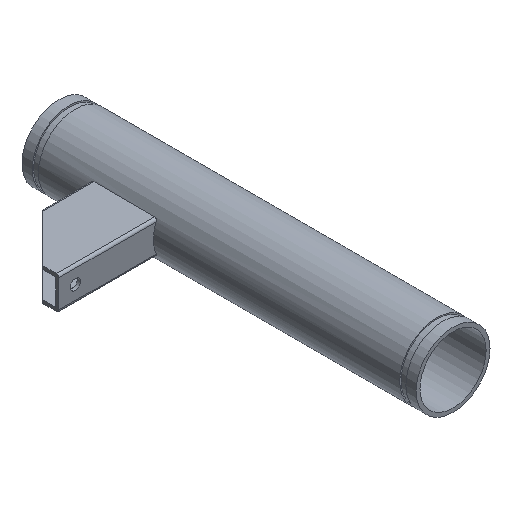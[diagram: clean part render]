
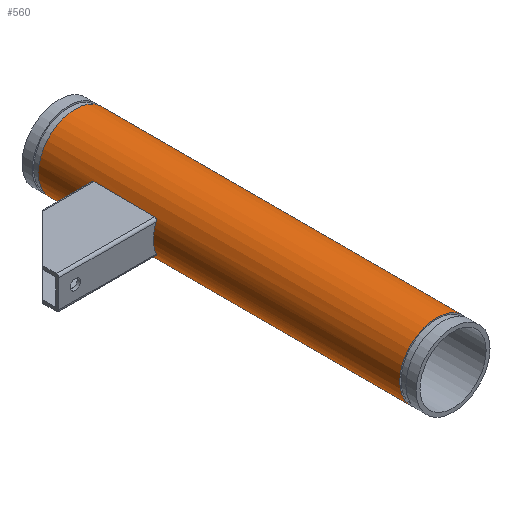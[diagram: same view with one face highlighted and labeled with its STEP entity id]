
A CAD part, isometric view. The second image highlights one B-rep face of the part: STEP entity #560.
In plain terms, the highlighted cylindrical face has radius 57.15 mm (diameter 114.3 mm), a full revolution.
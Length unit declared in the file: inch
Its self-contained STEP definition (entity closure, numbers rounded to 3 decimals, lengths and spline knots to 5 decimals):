
#22=CIRCLE('',#603,2.25);
#23=CIRCLE('',#604,2.25);
#32=CIRCLE('',#621,2.25);
#33=CIRCLE('',#622,2.25);
#34=CIRCLE('',#623,2.25);
#35=CIRCLE('',#624,2.25);
#36=CIRCLE('',#625,2.25);
#37=CIRCLE('',#626,2.25);
#83=FACE_OUTER_BOUND('',#111,.T.);
#111=EDGE_LOOP('',(#407,#408,#409,#410,#411,#412,#413,#414,#415,#416,#417,
#418,#419,#420,#421,#422,#423,#424));
#136=B_SPLINE_CURVE_WITH_KNOTS('',3,(#837,#838,#839,#840,#841,#842,#843,
#844,#845,#846),.UNSPECIFIED.,.F.,.F.,(4,2,2,2,4),(0.,0.14327,
0.28654,0.4441,0.60167),.UNSPECIFIED.);
#137=B_SPLINE_CURVE_WITH_KNOTS('',3,(#863,#864,#865,#866,#867,#868,#869,
#870,#871,#872),.UNSPECIFIED.,.F.,.F.,(4,2,2,2,4),(-0.60167,-0.4441,
-0.28654,-0.14327,0.),.UNSPECIFIED.);
#138=B_SPLINE_CURVE_WITH_KNOTS('',3,(#883,#884,#885,#886,#887,#888,#889,
#890,#891,#892),.UNSPECIFIED.,.F.,.F.,(4,2,2,2,4),(0.59362,0.75118,
0.90875,1.05202,1.19529),.UNSPECIFIED.);
#139=B_SPLINE_CURVE_WITH_KNOTS('',3,(#914,#915,#916,#917,#918,#919,#920,
#921,#922,#923),.UNSPECIFIED.,.F.,.F.,(4,2,2,2,4),(1.19529,1.33855,
1.48182,1.63939,1.79696),.UNSPECIFIED.);
#142=LINE('',#850,#180);
#160=LINE('',#927,#198);
#167=LINE('',#959,#205);
#168=LINE('',#962,#206);
#180=VECTOR('',#671,0.3937);
#198=VECTOR('',#711,0.3937);
#205=VECTOR('',#742,2.25);
#206=VECTOR('',#745,2.25);
#220=VERTEX_POINT('',#834);
#221=VERTEX_POINT('',#836);
#222=VERTEX_POINT('',#849);
#227=VERTEX_POINT('',#860);
#228=VERTEX_POINT('',#862);
#229=VERTEX_POINT('',#876);
#231=VERTEX_POINT('',#882);
#239=VERTEX_POINT('',#911);
#240=VERTEX_POINT('',#913);
#251=VERTEX_POINT('',#954);
#252=VERTEX_POINT('',#955);
#253=VERTEX_POINT('',#958);
#254=VERTEX_POINT('',#961);
#255=VERTEX_POINT('',#963);
#276=EDGE_CURVE('',#220,#221,#136,.F.);
#278=EDGE_CURVE('',#222,#221,#142,.T.);
#284=EDGE_CURVE('',#227,#228,#137,.F.);
#287=EDGE_CURVE('',#229,#228,#22,.T.);
#288=EDGE_CURVE('',#220,#229,#23,.T.);
#290=EDGE_CURVE('',#222,#231,#138,.F.);
#301=EDGE_CURVE('',#239,#240,#139,.F.);
#304=EDGE_CURVE('',#227,#240,#160,.T.);
#317=EDGE_CURVE('',#251,#252,#32,.T.);
#318=EDGE_CURVE('',#252,#251,#33,.T.);
#319=EDGE_CURVE('',#252,#253,#167,.T.);
#320=EDGE_CURVE('',#253,#231,#34,.T.);
#321=EDGE_CURVE('',#229,#254,#168,.T.);
#322=EDGE_CURVE('',#254,#255,#35,.T.);
#323=EDGE_CURVE('',#255,#254,#36,.T.);
#324=EDGE_CURVE('',#239,#253,#37,.T.);
#407=ORIENTED_EDGE('',*,*,#317,.F.);
#408=ORIENTED_EDGE('',*,*,#318,.F.);
#409=ORIENTED_EDGE('',*,*,#319,.T.);
#410=ORIENTED_EDGE('',*,*,#320,.T.);
#411=ORIENTED_EDGE('',*,*,#290,.F.);
#412=ORIENTED_EDGE('',*,*,#278,.T.);
#413=ORIENTED_EDGE('',*,*,#276,.F.);
#414=ORIENTED_EDGE('',*,*,#288,.T.);
#415=ORIENTED_EDGE('',*,*,#321,.T.);
#416=ORIENTED_EDGE('',*,*,#322,.T.);
#417=ORIENTED_EDGE('',*,*,#323,.T.);
#418=ORIENTED_EDGE('',*,*,#321,.F.);
#419=ORIENTED_EDGE('',*,*,#287,.T.);
#420=ORIENTED_EDGE('',*,*,#284,.F.);
#421=ORIENTED_EDGE('',*,*,#304,.T.);
#422=ORIENTED_EDGE('',*,*,#301,.F.);
#423=ORIENTED_EDGE('',*,*,#324,.T.);
#424=ORIENTED_EDGE('',*,*,#319,.F.);
#514=CYLINDRICAL_SURFACE('',#620,2.25);
#560=ADVANCED_FACE('',(#83),#514,.T.);
#603=AXIS2_PLACEMENT_3D('',#877,#684,#685);
#604=AXIS2_PLACEMENT_3D('',#878,#686,#687);
#620=AXIS2_PLACEMENT_3D('',#953,#736,#737);
#621=AXIS2_PLACEMENT_3D('',#956,#738,#739);
#622=AXIS2_PLACEMENT_3D('',#957,#740,#741);
#623=AXIS2_PLACEMENT_3D('',#960,#743,#744);
#624=AXIS2_PLACEMENT_3D('',#964,#746,#747);
#625=AXIS2_PLACEMENT_3D('',#965,#748,#749);
#626=AXIS2_PLACEMENT_3D('',#966,#750,#751);
#671=DIRECTION('',(0.,1.,0.));
#684=DIRECTION('center_axis',(0.,1.,0.));
#685=DIRECTION('ref_axis',(1.,0.,0.));
#686=DIRECTION('center_axis',(0.,1.,0.));
#687=DIRECTION('ref_axis',(1.,0.,0.));
#711=DIRECTION('',(0.,-1.,0.));
#736=DIRECTION('center_axis',(0.,-1.,0.));
#737=DIRECTION('ref_axis',(1.,0.,0.));
#738=DIRECTION('center_axis',(0.,-1.,0.));
#739=DIRECTION('ref_axis',(1.,0.,0.));
#740=DIRECTION('center_axis',(0.,-1.,0.));
#741=DIRECTION('ref_axis',(1.,0.,0.));
#742=DIRECTION('',(0.,1.,0.));
#743=DIRECTION('center_axis',(0.,-1.,0.));
#744=DIRECTION('ref_axis',(1.,0.,0.));
#745=DIRECTION('',(0.,1.,0.));
#746=DIRECTION('center_axis',(0.,-1.,0.));
#747=DIRECTION('ref_axis',(1.,0.,0.));
#748=DIRECTION('center_axis',(0.,-1.,0.));
#749=DIRECTION('ref_axis',(1.,0.,0.));
#750=DIRECTION('center_axis',(0.,-1.,0.));
#751=DIRECTION('ref_axis',(1.,0.,0.));
#834=CARTESIAN_POINT('',(-2.08327,20.,-0.85));
#836=CARTESIAN_POINT('',(-2.01556,19.85,-1.));
#837=CARTESIAN_POINT('Ctrl Pts',(-2.01556,19.85,-1.));
#838=CARTESIAN_POINT('Ctrl Pts',(-2.01556,19.8688,-1.));
#839=CARTESIAN_POINT('Ctrl Pts',(-2.01744,19.88868,-0.99624));
#840=CARTESIAN_POINT('Ctrl Pts',(-2.02469,19.92491,-0.98142));
#841=CARTESIAN_POINT('Ctrl Pts',(-2.03004,19.94127,-0.97037));
#842=CARTESIAN_POINT('Ctrl Pts',(-2.0423,19.96828,-0.94432));
#843=CARTESIAN_POINT('Ctrl Pts',(-2.05022,19.98027,-0.92711));
#844=CARTESIAN_POINT('Ctrl Pts',(-2.0668,19.99613,-0.88953));
#845=CARTESIAN_POINT('Ctrl Pts',(-2.07545,20.,-0.86915));
#846=CARTESIAN_POINT('Ctrl Pts',(-2.08327,20.,-0.85));
#849=CARTESIAN_POINT('',(-2.01556,16.15,-1.));
#850=CARTESIAN_POINT('',(-2.01556,12.,-1.));
#860=CARTESIAN_POINT('',(-2.01556,19.85,1.));
#862=CARTESIAN_POINT('',(-2.08327,20.,0.85));
#863=CARTESIAN_POINT('Ctrl Pts',(-2.08327,20.,0.85));
#864=CARTESIAN_POINT('Ctrl Pts',(-2.07545,20.,0.86915));
#865=CARTESIAN_POINT('Ctrl Pts',(-2.0668,19.99613,0.88953));
#866=CARTESIAN_POINT('Ctrl Pts',(-2.05022,19.98027,0.92711));
#867=CARTESIAN_POINT('Ctrl Pts',(-2.0423,19.96828,0.94432));
#868=CARTESIAN_POINT('Ctrl Pts',(-2.03004,19.94127,0.97037));
#869=CARTESIAN_POINT('Ctrl Pts',(-2.02469,19.92491,0.98142));
#870=CARTESIAN_POINT('Ctrl Pts',(-2.01744,19.88868,0.99624));
#871=CARTESIAN_POINT('Ctrl Pts',(-2.01556,19.8688,1.));
#872=CARTESIAN_POINT('Ctrl Pts',(-2.01556,19.85,1.));
#876=CARTESIAN_POINT('',(-2.25,20.,0.));
#877=CARTESIAN_POINT('Origin',(0.,20.,0.));
#878=CARTESIAN_POINT('Origin',(0.,20.,0.));
#882=CARTESIAN_POINT('',(-2.08327,16.,-0.85));
#883=CARTESIAN_POINT('Ctrl Pts',(-2.08327,16.,-0.85));
#884=CARTESIAN_POINT('Ctrl Pts',(-2.07545,16.,-0.86915));
#885=CARTESIAN_POINT('Ctrl Pts',(-2.0668,16.00387,-0.88953));
#886=CARTESIAN_POINT('Ctrl Pts',(-2.05022,16.01973,-0.92711));
#887=CARTESIAN_POINT('Ctrl Pts',(-2.0423,16.03172,-0.94432));
#888=CARTESIAN_POINT('Ctrl Pts',(-2.03004,16.05873,-0.97037));
#889=CARTESIAN_POINT('Ctrl Pts',(-2.02469,16.07509,-0.98142));
#890=CARTESIAN_POINT('Ctrl Pts',(-2.01744,16.11132,-0.99624));
#891=CARTESIAN_POINT('Ctrl Pts',(-2.01556,16.1312,-1.));
#892=CARTESIAN_POINT('Ctrl Pts',(-2.01556,16.15,-1.));
#911=CARTESIAN_POINT('',(-2.08327,16.,0.85));
#913=CARTESIAN_POINT('',(-2.01556,16.15,1.));
#914=CARTESIAN_POINT('Ctrl Pts',(-2.01556,16.15,1.));
#915=CARTESIAN_POINT('Ctrl Pts',(-2.01556,16.1312,1.));
#916=CARTESIAN_POINT('Ctrl Pts',(-2.01744,16.11132,0.99624));
#917=CARTESIAN_POINT('Ctrl Pts',(-2.02469,16.07509,0.98142));
#918=CARTESIAN_POINT('Ctrl Pts',(-2.03004,16.05873,0.97037));
#919=CARTESIAN_POINT('Ctrl Pts',(-2.0423,16.03172,0.94432));
#920=CARTESIAN_POINT('Ctrl Pts',(-2.05022,16.01973,0.92711));
#921=CARTESIAN_POINT('Ctrl Pts',(-2.0668,16.00387,0.88953));
#922=CARTESIAN_POINT('Ctrl Pts',(-2.07545,16.,0.86915));
#923=CARTESIAN_POINT('Ctrl Pts',(-2.08327,16.,0.85));
#927=CARTESIAN_POINT('',(-2.01556,12.,1.));
#953=CARTESIAN_POINT('Origin',(0.,12.,0.));
#954=CARTESIAN_POINT('',(2.25,1.,0.));
#955=CARTESIAN_POINT('',(-2.25,1.,0.));
#956=CARTESIAN_POINT('Origin',(0.,1.,0.));
#957=CARTESIAN_POINT('Origin',(0.,1.,0.));
#958=CARTESIAN_POINT('',(-2.25,16.,0.));
#959=CARTESIAN_POINT('',(-2.25,12.,0.));
#960=CARTESIAN_POINT('Origin',(0.,16.,0.));
#961=CARTESIAN_POINT('',(-2.25,23.,0.));
#962=CARTESIAN_POINT('',(-2.25,12.,0.));
#963=CARTESIAN_POINT('',(2.25,23.,0.));
#964=CARTESIAN_POINT('Origin',(0.,23.,0.));
#965=CARTESIAN_POINT('Origin',(0.,23.,0.));
#966=CARTESIAN_POINT('Origin',(0.,16.,0.));
